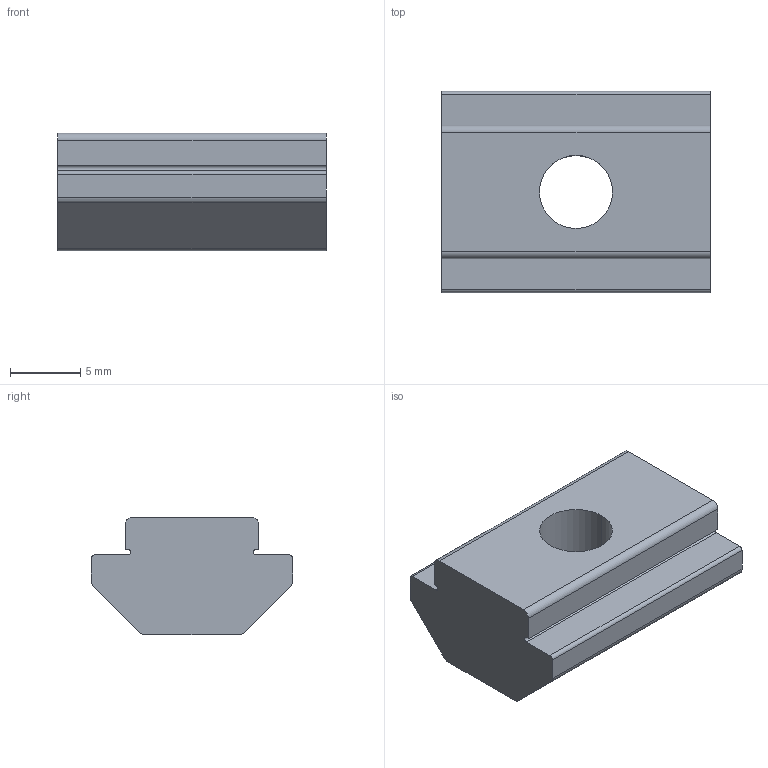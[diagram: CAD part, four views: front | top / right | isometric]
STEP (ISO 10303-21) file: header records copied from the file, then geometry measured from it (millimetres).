
FILE_DESCRIPTION((''),'2;1');
FILE_NAME('639971M','2023-02-28T',('jenni.wallner'),(''),'PRO/ENGINEER BY PARAMETRIC TECHNOLOGY CORPORATION, 2012420','PRO/ENGINEER BY PARAMETRIC TECHNOLOGY CORPORATION, 2012420','');
FILE_SCHEMA(('CONFIG_CONTROL_DESIGN'));
Length unit declared in the file: inch
Products named in the file (1): 639971M
Bounding box: 19.05 x 14.3 x 8.33 mm (x, y, z)
Volume: 1596.3 mm3; surface area: 1070.5 mm2
Topology: 1 solids, 1 shells, 26 faces, 72 edges, 48 vertices
Faces by surface type: plane 14, cylinder 12
Entity records: 884 total; most frequent: DIRECTION 148, CARTESIAN_POINT 146, ORIENTED_EDGE 144, EDGE_CURVE 72, AXIS2_PLACEMENT_3D 50, VECTOR 48, LINE 48, VERTEX_POINT 48
